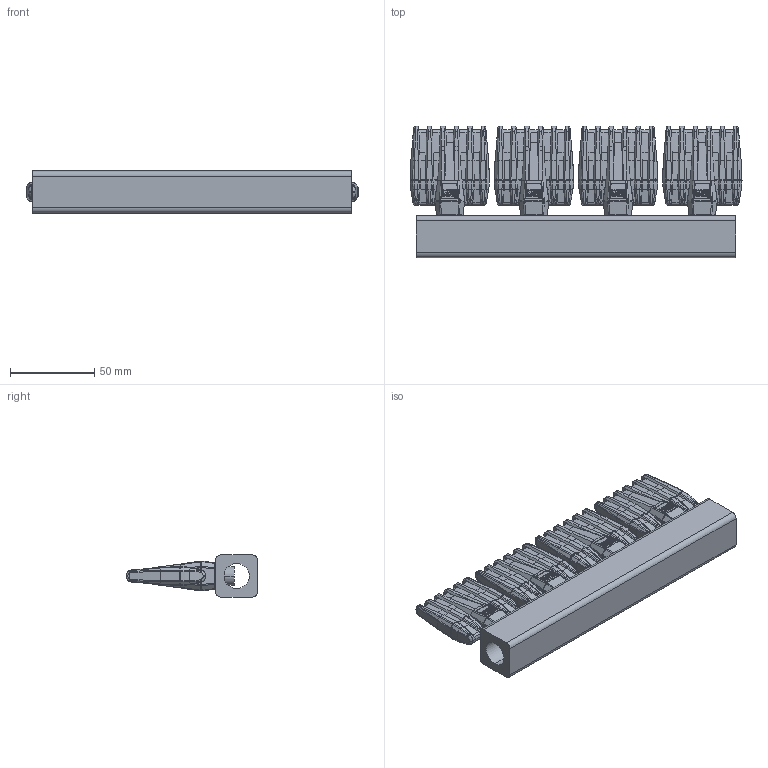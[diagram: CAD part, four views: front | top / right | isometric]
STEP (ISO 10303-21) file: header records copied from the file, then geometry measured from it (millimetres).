
FILE_DESCRIPTION (( 'STEP AP203' ), '1' );
FILE_NAME ('394W-S.STEP', '2019-09-06T12:28:18', ( '' ), ( '' ), 'SwSTEP 2.0', 'SolidWorks 2016', '' );
FILE_SCHEMA (( 'CONFIG_CONTROL_DESIGN' ));
Products named in the file (1): 394W-S
Bounding box: 197.21 x 78 x 25 mm (x, y, z)
Surface area: 60159.3 mm2 (no closed solid volume)
Topology: 0 solids, 9 shells, 4692 faces, 12840 edges, 8016 vertices
Faces by surface type: bspline 1928, plane 1620, cylinder 1128, sphere 16
Entity records: 183029 total; most frequent: CARTESIAN_POINT 84381, ORIENTED_EDGE 24048, DIRECTION 14242, EDGE_CURVE 12760, VERTEX_POINT 8016, VECTOR 6120, LINE 6120, EDGE_LOOP 4856
